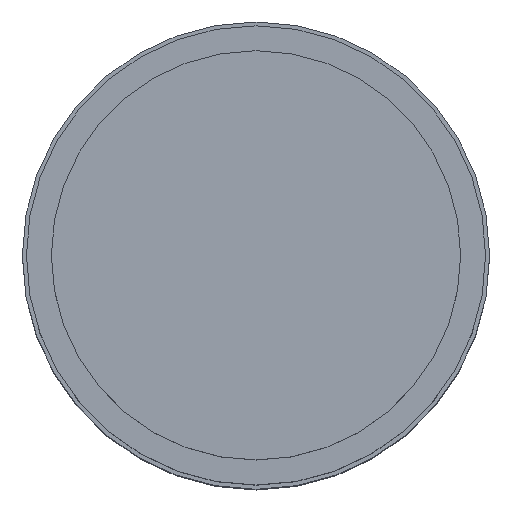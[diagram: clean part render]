
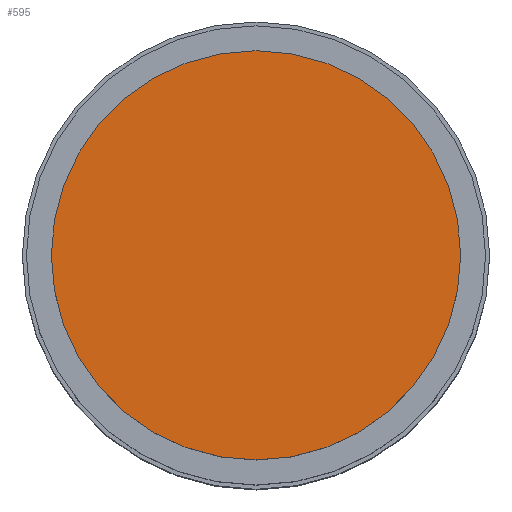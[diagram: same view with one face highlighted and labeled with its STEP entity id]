
A CAD part, top view. The second image highlights one B-rep face of the part: STEP entity #595.
In plain terms, the highlighted planar face has unit normal (0, 0, 1).
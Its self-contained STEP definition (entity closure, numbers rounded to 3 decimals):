
#12 = DIRECTION ( 'NONE',  ( 0., 0., 1. ) ) ;
#77 = VERTEX_POINT ( 'NONE', #531 ) ;
#96 = EDGE_CURVE ( 'NONE', #848, #77, #124, .T. ) ;
#124 = CIRCLE ( 'NONE', #739, 12.7 ) ;
#145 = CIRCLE ( 'NONE', #316, 12.7 ) ;
#163 = ORIENTED_EDGE ( 'NONE', *, *, #249, .F. ) ;
#174 = DIRECTION ( 'NONE',  ( -1., 0., 0. ) ) ;
#249 = EDGE_CURVE ( 'NONE', #77, #848, #145, .T. ) ;
#315 = AXIS2_PLACEMENT_3D ( 'NONE', #1398, #12, #823 ) ;
#316 = AXIS2_PLACEMENT_3D ( 'NONE', #381, #1161, #174 ) ;
#381 = CARTESIAN_POINT ( 'NONE',  ( 0., 0., 4. ) ) ;
#428 = EDGE_LOOP ( 'NONE', ( #163, #1318 ) ) ;
#509 = CARTESIAN_POINT ( 'NONE',  ( 0., 0., 4. ) ) ;
#531 = CARTESIAN_POINT ( 'NONE',  ( -12.7, 0., 4. ) ) ;
#534 = FACE_OUTER_BOUND ( 'NONE', #428, .T. ) ;
#595 = ADVANCED_FACE ( 'NONE', ( #534 ), #1291, .T. ) ;
#629 = DIRECTION ( 'NONE',  ( -1., 0., 0. ) ) ;
#739 = AXIS2_PLACEMENT_3D ( 'NONE', #509, #1302, #629 ) ;
#823 = DIRECTION ( 'NONE',  ( 1., 0., 0. ) ) ;
#844 = CARTESIAN_POINT ( 'NONE',  ( 12.7, 0., 4. ) ) ;
#848 = VERTEX_POINT ( 'NONE', #844 ) ;
#1161 = DIRECTION ( 'NONE',  ( 0., 0., -1. ) ) ;
#1291 = PLANE ( 'NONE',  #315 ) ;
#1302 = DIRECTION ( 'NONE',  ( 0., 0., -1. ) ) ;
#1318 = ORIENTED_EDGE ( 'NONE', *, *, #96, .F. ) ;
#1398 = CARTESIAN_POINT ( 'NONE',  ( 0., 12.7, 4. ) ) ;
